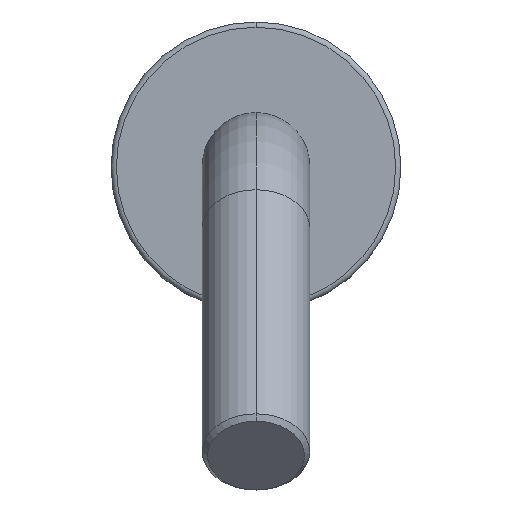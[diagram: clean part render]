
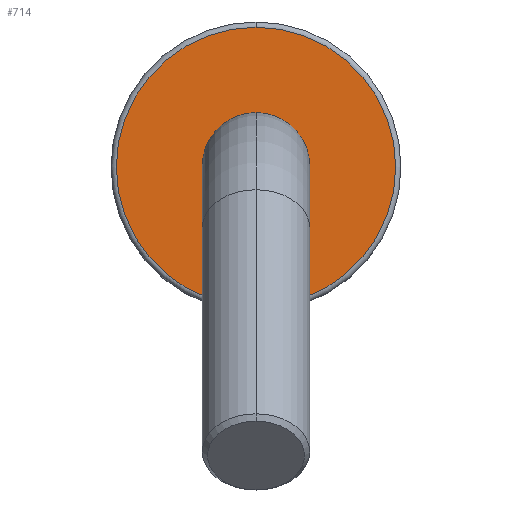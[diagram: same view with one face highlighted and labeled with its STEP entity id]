
A CAD part, top view. The second image highlights one B-rep face of the part: STEP entity #714.
In plain terms, the highlighted planar face has unit normal (0, 0, 1).
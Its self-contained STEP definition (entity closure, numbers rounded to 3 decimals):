
#17 = DIRECTION ( 'NONE',  ( 0., 0., -1. ) ) ;
#43 = ORIENTED_EDGE ( 'NONE', *, *, #177, .T. ) ;
#60 = CIRCLE ( 'NONE', #107, 26.5 ) ;
#71 = EDGE_CURVE ( 'NONE', #252, #860, #375, .T. ) ;
#78 = DIRECTION ( 'NONE',  ( 0., 0., -1. ) ) ;
#96 = CARTESIAN_POINT ( 'NONE',  ( 111.978, 80.595, 47.379 ) ) ;
#107 = AXIS2_PLACEMENT_3D ( 'NONE', #96, #855, #513 ) ;
#164 = PLANE ( 'NONE',  #589 ) ;
#169 = VERTEX_POINT ( 'NONE', #919 ) ;
#177 = EDGE_CURVE ( 'NONE', #860, #252, #305, .T. ) ;
#211 = FACE_OUTER_BOUND ( 'NONE', #452, .T. ) ;
#223 = CARTESIAN_POINT ( 'NONE',  ( 111.978, 80.595, 47.379 ) ) ;
#228 = ORIENTED_EDGE ( 'NONE', *, *, #71, .T. ) ;
#249 = EDGE_LOOP ( 'NONE', ( #43, #228 ) ) ;
#252 = VERTEX_POINT ( 'NONE', #895 ) ;
#273 = VERTEX_POINT ( 'NONE', #898 ) ;
#305 = CIRCLE ( 'NONE', #560, 10.2 ) ;
#331 = FACE_BOUND ( 'NONE', #249, .T. ) ;
#375 = CIRCLE ( 'NONE', #506, 10.2 ) ;
#410 = CARTESIAN_POINT ( 'NONE',  ( 111.978, 80.595, 47.379 ) ) ;
#435 = DIRECTION ( 'NONE',  ( 0., -1., 0. ) ) ;
#443 = DIRECTION ( 'NONE',  ( 0., -1., 0. ) ) ;
#452 = EDGE_LOOP ( 'NONE', ( #812, #609 ) ) ;
#470 = CIRCLE ( 'NONE', #534, 26.5 ) ;
#506 = AXIS2_PLACEMENT_3D ( 'NONE', #410, #726, #850 ) ;
#512 = EDGE_CURVE ( 'NONE', #169, #273, #470, .T. ) ;
#513 = DIRECTION ( 'NONE',  ( 0., 1., 0. ) ) ;
#516 = DIRECTION ( 'NONE',  ( 0., 0., 1. ) ) ;
#518 = EDGE_CURVE ( 'NONE', #273, #169, #60, .T. ) ;
#534 = AXIS2_PLACEMENT_3D ( 'NONE', #223, #78, #846 ) ;
#560 = AXIS2_PLACEMENT_3D ( 'NONE', #703, #17, #435 ) ;
#589 = AXIS2_PLACEMENT_3D ( 'NONE', #686, #516, #443 ) ;
#609 = ORIENTED_EDGE ( 'NONE', *, *, #518, .F. ) ;
#686 = CARTESIAN_POINT ( 'NONE',  ( 111.978, 107.095, 47.379 ) ) ;
#687 = CARTESIAN_POINT ( 'NONE',  ( 111.978, 90.795, 47.379 ) ) ;
#703 = CARTESIAN_POINT ( 'NONE',  ( 111.978, 80.595, 47.379 ) ) ;
#714 = ADVANCED_FACE ( 'NONE', ( #331, #211 ), #164, .T. ) ;
#726 = DIRECTION ( 'NONE',  ( 0., 0., -1. ) ) ;
#812 = ORIENTED_EDGE ( 'NONE', *, *, #512, .F. ) ;
#846 = DIRECTION ( 'NONE',  ( 0., 1., 0. ) ) ;
#850 = DIRECTION ( 'NONE',  ( 0., -1., 0. ) ) ;
#855 = DIRECTION ( 'NONE',  ( 0., 0., -1. ) ) ;
#860 = VERTEX_POINT ( 'NONE', #687 ) ;
#895 = CARTESIAN_POINT ( 'NONE',  ( 111.978, 70.395, 47.379 ) ) ;
#898 = CARTESIAN_POINT ( 'NONE',  ( 111.978, 54.095, 47.379 ) ) ;
#919 = CARTESIAN_POINT ( 'NONE',  ( 111.978, 107.095, 47.379 ) ) ;
